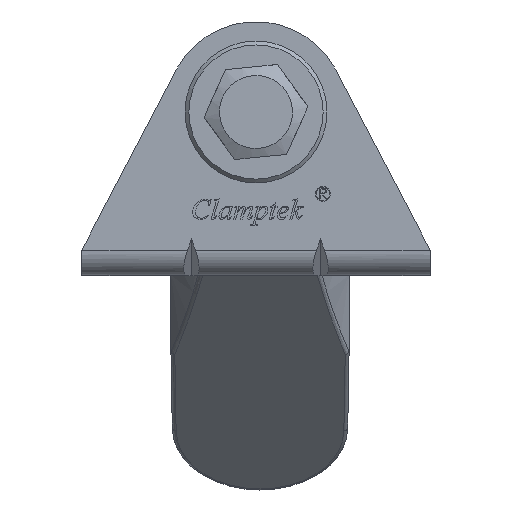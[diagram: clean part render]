
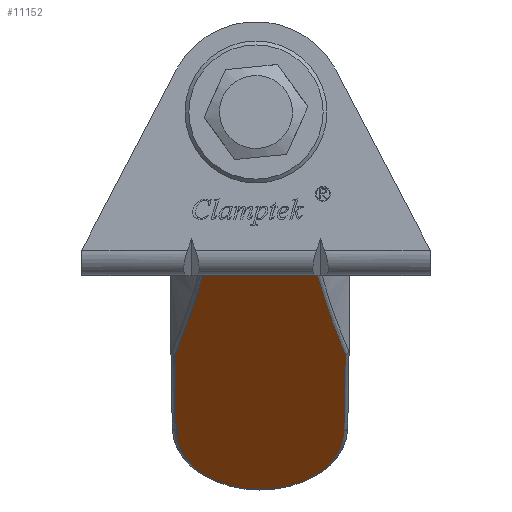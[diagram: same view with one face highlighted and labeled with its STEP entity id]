
A CAD part, left-side view. The second image highlights one B-rep face of the part: STEP entity #11152.
In plain terms, the highlighted planar face has unit normal (-0.693, 0, -0.721) as drawn and (0.703, 0.712, 0) by its records, which use the part's own axes.
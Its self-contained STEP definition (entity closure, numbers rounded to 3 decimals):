
#273=ELLIPSE('',#12103,68.003,45.337);
#274=ELLIPSE('',#12104,68.003,45.337);
#457=PLANE('',#12102);
#860=FACE_OUTER_BOUND('',#1502,.T.);
#1502=EDGE_LOOP('',(#8372,#8373,#8374,#8375,#8376,#8377));
#2111=CIRCLE('',#12075,6.5);
#2960=LINE('',#34477,#3833);
#2971=LINE('',#34672,#3844);
#2972=LINE('',#34676,#3845);
#3833=VECTOR('',#13264,1000.);
#3844=VECTOR('',#13309,1000.);
#3845=VECTOR('',#13314,1000.);
#4845=VERTEX_POINT('',#34414);
#4846=VERTEX_POINT('',#34416);
#4857=VERTEX_POINT('',#34465);
#4858=VERTEX_POINT('',#34476);
#4889=VERTEX_POINT('',#34671);
#4890=VERTEX_POINT('',#34674);
#6141=EDGE_CURVE('',#4846,#4845,#2111,.T.);
#6155=EDGE_CURVE('',#4858,#4857,#2960,.T.);
#6191=EDGE_CURVE('',#4845,#4889,#2971,.T.);
#6192=EDGE_CURVE('',#4889,#4858,#273,.T.);
#6193=EDGE_CURVE('',#4857,#4890,#274,.T.);
#6194=EDGE_CURVE('',#4890,#4846,#2972,.T.);
#8372=ORIENTED_EDGE('',*,*,#6191,.T.);
#8373=ORIENTED_EDGE('',*,*,#6192,.T.);
#8374=ORIENTED_EDGE('',*,*,#6155,.T.);
#8375=ORIENTED_EDGE('',*,*,#6193,.T.);
#8376=ORIENTED_EDGE('',*,*,#6194,.T.);
#8377=ORIENTED_EDGE('',*,*,#6141,.T.);
#11152=ADVANCED_FACE('',(#860),#457,.T.);
#12075=AXIS2_PLACEMENT_3D('',#34417,#13239,#13240);
#12102=AXIS2_PLACEMENT_3D('',#34670,#13307,#13308);
#12103=AXIS2_PLACEMENT_3D('',#34673,#13310,#13311);
#12104=AXIS2_PLACEMENT_3D('',#34675,#13312,#13313);
#13239=DIRECTION('center_axis',(0.703,0.712,0.));
#13240=DIRECTION('ref_axis',(-0.712,0.703,0.));
#13264=DIRECTION('',(0.,0.,-1.));
#13307=DIRECTION('center_axis',(0.703,0.712,0.));
#13308=DIRECTION('ref_axis',(-0.712,0.703,0.));
#13309=DIRECTION('',(0.712,-0.702,0.012));
#13310=DIRECTION('center_axis',(-0.703,-0.712,0.));
#13311=DIRECTION('ref_axis',(0.708,-0.699,-0.102));
#13312=DIRECTION('center_axis',(-0.703,-0.712,0.));
#13313=DIRECTION('ref_axis',(0.708,-0.699,0.102));
#13314=DIRECTION('',(-0.712,0.702,0.012));
#34414=CARTESIAN_POINT('',(-34.901,26.458,21.499));
#34416=CARTESIAN_POINT('',(-34.901,26.458,8.499));
#34417=CARTESIAN_POINT('Origin',(-34.902,26.46,14.999));
#34465=CARTESIAN_POINT('',(-22.43,14.147,10.578));
#34476=CARTESIAN_POINT('',(-22.43,14.147,19.422));
#34477=CARTESIAN_POINT('',(-22.43,14.147,30.));
#34670=CARTESIAN_POINT('Origin',(-47.006,38.408,0.));
#34671=CARTESIAN_POINT('',(-28.812,20.448,21.602));
#34672=CARTESIAN_POINT('',(-28.936,20.57,21.6));
#34673=CARTESIAN_POINT('Origin',(-12.718,4.56,63.188));
#34674=CARTESIAN_POINT('',(-28.812,20.448,8.398));
#34675=CARTESIAN_POINT('Origin',(-12.718,4.56,-33.188));
#34676=CARTESIAN_POINT('',(-34.9,26.457,8.499));
